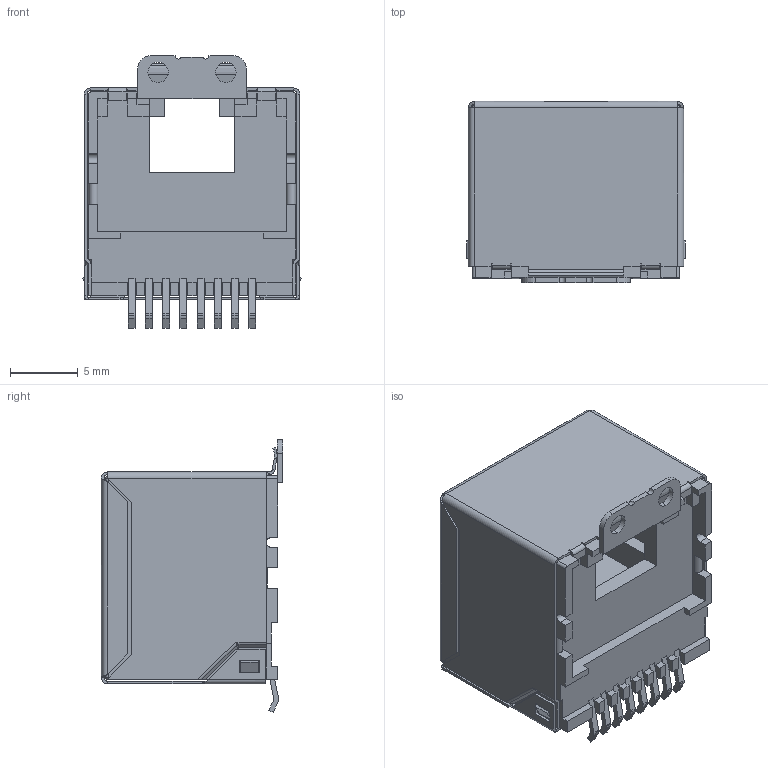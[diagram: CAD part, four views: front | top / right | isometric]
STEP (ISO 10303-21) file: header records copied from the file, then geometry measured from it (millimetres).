
FILE_DESCRIPTION (( 'STEP AP203' ), '1' );
FILE_NAME ('J26843029976.STEP', '2017-06-14T08:28:54', ( '' ), ( '' ), 'SwSTEP 2.0', 'SolidWorks 2013', '' );
FILE_SCHEMA (( 'CONFIG_CONTROL_DESIGN' ));
Length unit declared in the file: millimetre
Products named in the file (3): J26843029976; SJ268-鐵殼(170614); J26843029976(客戶用)
Assembly tree (2 placements, depth 2):
  J26843029976
    J26843029976(客戶用)
    SJ268-鐵殼(170614)
Bounding box: 16.11 x 13.34 x 20.07 mm (x, y, z)
Volume: 1753.6 mm3; surface area: 3637.4 mm2
Topology: 2 solids, 2 shells, 600 faces, 1608 edges, 1001 vertices
Faces by surface type: plane 436, cylinder 136, bspline 24, sphere 4
Entity records: 18995 total; most frequent: CARTESIAN_POINT 3870, ORIENTED_EDGE 3200, DIRECTION 2933, EDGE_CURVE 1600, LINE 1305, VECTOR 1305, VERTEX_POINT 1001, AXIS2_PLACEMENT_3D 814
